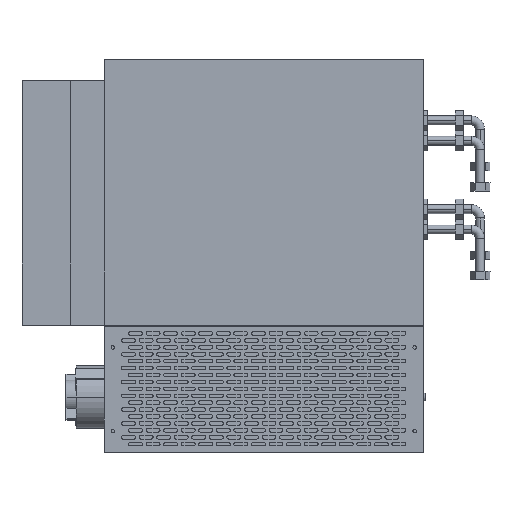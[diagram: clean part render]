
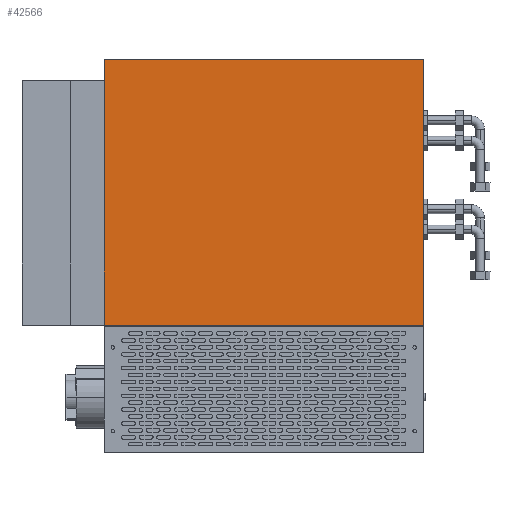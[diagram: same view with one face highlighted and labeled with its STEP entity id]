
A CAD part, top view. The second image highlights one B-rep face of the part: STEP entity #42566.
In plain terms, the highlighted planar face has unit normal (0, 0, 1).
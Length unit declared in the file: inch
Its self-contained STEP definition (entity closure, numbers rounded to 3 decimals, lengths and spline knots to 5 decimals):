
#1034 = LINE ( 'NONE', #6762, #42579 ) ;
#2540 = CARTESIAN_POINT ( 'NONE',  ( 9., 22.125, 2.5625 ) ) ;
#4212 = PLANE ( 'NONE',  #42920 ) ;
#6077 = VECTOR ( 'NONE', #72381, 39.37008 ) ;
#6762 = CARTESIAN_POINT ( 'NONE',  ( -9., 22.125, 2.5625 ) ) ;
#11166 = CARTESIAN_POINT ( 'NONE',  ( 9., 22.125, 2.5625 ) ) ;
#29486 = VERTEX_POINT ( 'NONE', #32658 ) ;
#32658 = CARTESIAN_POINT ( 'NONE',  ( 9., 7.164, 2.5625 ) ) ;
#37483 = VERTEX_POINT ( 'NONE', #11166 ) ;
#38947 = DIRECTION ( 'NONE',  ( -1., 0., 0. ) ) ;
#40557 = ORIENTED_EDGE ( 'NONE', *, *, #63412, .F. ) ;
#42566 = ADVANCED_FACE ( 'NONE', ( #74431 ), #4212, .F. ) ;
#42579 = VECTOR ( 'NONE', #71628, 39.37008 ) ;
#42920 = AXIS2_PLACEMENT_3D ( 'NONE', #67947, #75167, #38947 ) ;
#43142 = CARTESIAN_POINT ( 'NONE',  ( -9., 22.125, 2.5625 ) ) ;
#43222 = VERTEX_POINT ( 'NONE', #54071 ) ;
#43624 = ORIENTED_EDGE ( 'NONE', *, *, #72718, .F. ) ;
#43638 = ORIENTED_EDGE ( 'NONE', *, *, #53789, .F. ) ;
#43836 = DIRECTION ( 'NONE',  ( -1., 0., 0. ) ) ;
#44408 = EDGE_LOOP ( 'NONE', ( #69607, #40557, #43638, #43624 ) ) ;
#53789 = EDGE_CURVE ( 'NONE', #37483, #29486, #54853, .T. ) ;
#54071 = CARTESIAN_POINT ( 'NONE',  ( -9., 22.125, 2.5625 ) ) ;
#54853 = LINE ( 'NONE', #2540, #6077 ) ;
#55001 = LINE ( 'NONE', #43142, #63449 ) ;
#55246 = VERTEX_POINT ( 'NONE', #65076 ) ;
#57137 = VECTOR ( 'NONE', #43836, 39.37008 ) ;
#63412 = EDGE_CURVE ( 'NONE', #29486, #55246, #66724, .T. ) ;
#63449 = VECTOR ( 'NONE', #66059, 39.37008 ) ;
#65076 = CARTESIAN_POINT ( 'NONE',  ( -9., 7.164, 2.5625 ) ) ;
#65991 = CARTESIAN_POINT ( 'NONE',  ( -9., 7.164, 2.5625 ) ) ;
#66059 = DIRECTION ( 'NONE',  ( 0., -1., 0. ) ) ;
#66724 = LINE ( 'NONE', #65991, #57137 ) ;
#67947 = CARTESIAN_POINT ( 'NONE',  ( -9., 22.125, 2.5625 ) ) ;
#69607 = ORIENTED_EDGE ( 'NONE', *, *, #75514, .T. ) ;
#71628 = DIRECTION ( 'NONE',  ( 1., 0., 0. ) ) ;
#72381 = DIRECTION ( 'NONE',  ( 0., -1., 0. ) ) ;
#72718 = EDGE_CURVE ( 'NONE', #43222, #37483, #1034, .T. ) ;
#74431 = FACE_OUTER_BOUND ( 'NONE', #44408, .T. ) ;
#75167 = DIRECTION ( 'NONE',  ( 0., 0., -1. ) ) ;
#75514 = EDGE_CURVE ( 'NONE', #43222, #55246, #55001, .T. ) ;
